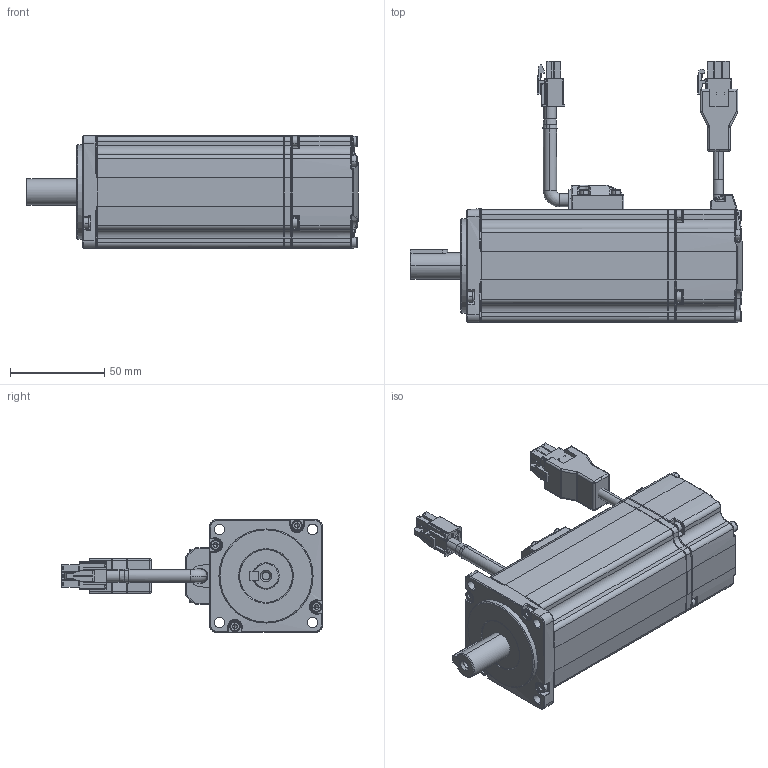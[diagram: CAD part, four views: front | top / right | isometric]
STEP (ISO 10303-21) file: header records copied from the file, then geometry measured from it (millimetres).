
FILE_DESCRIPTION (( 'STEP AP203' ), '1' );
FILE_NAME ('EM3A04A-100-A3-S（永磁交流伺服电机）.STEP', '2019-05-27T01:52:48', ( '' ), ( '' ), 'SwSTEP 2.0', 'SolidWorks 2018', '' );
FILE_SCHEMA (( 'CONFIG_CONTROL_DESIGN' ));
Length unit declared in the file: millimetre
Products named in the file (1): EM3A04A-100-A3-S（永磁交流伺服电机）
Bounding box: 176.5 x 138.7 x 60 mm (x, y, z)
Surface area: 57721.6 mm2 (no closed solid volume)
Topology: 0 solids, 65 shells, 1318 faces, 3797 edges, 2443 vertices
Faces by surface type: plane 508, cylinder 407, torus 141, cone 139, bspline 79, sphere 44
Entity records: 55662 total; most frequent: CARTESIAN_POINT 30228, ORIENTED_EDGE 6349, EDGE_CURVE 3706, B_SPLINE_CURVE_WITH_KNOTS 3647, DIRECTION 2478, VERTEX_POINT 2435, EDGE_LOOP 1440, ADVANCED_FACE 1317
